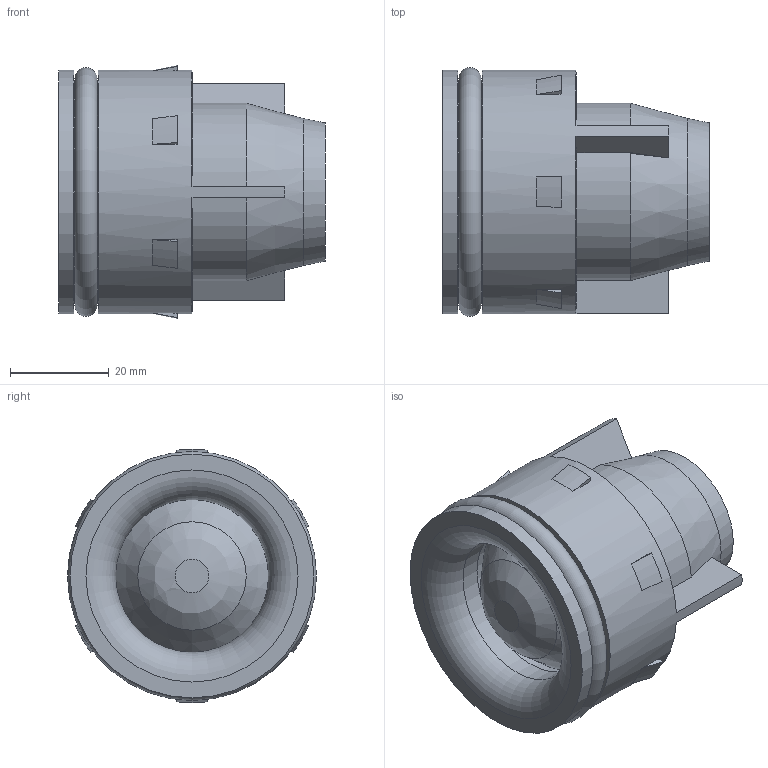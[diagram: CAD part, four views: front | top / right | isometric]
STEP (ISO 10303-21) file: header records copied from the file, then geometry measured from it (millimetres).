
FILE_DESCRIPTION((''),'2;1');
FILE_NAME('C:\Users\duckj\Desktop\10002717.stp','2017-08-02T09:17:09',('duckj'),(''),'Autodesk Inventor 2013','Autodesk Inventor 2013','');
FILE_SCHEMA(('CONFIG_CONTROL_DESIGN'));
Length unit declared in the file: millimetre
Products named in the file (1): 02082017_009
Bounding box: 54 x 50.49 x 51.36 mm (x, y, z)
Volume: 66990.6 mm3; surface area: 17061.3 mm2
Topology: 1 solids, 1 shells, 72 faces, 169 edges, 112 vertices
Faces by surface type: plane 39, cone 19, cylinder 8, torus 5, bspline 1
Full cylindrical faces by diameter (mm): 8.5 x1, 31 x1, 33 x1, 49.4 x2
Entity records: 2053 total; most frequent: CARTESIAN_POINT 374, DIRECTION 340, ORIENTED_EDGE 294, EDGE_CURVE 147, AXIS2_PLACEMENT_3D 134, VERTEX_POINT 105, EDGE_LOOP 98, VECTOR 72
